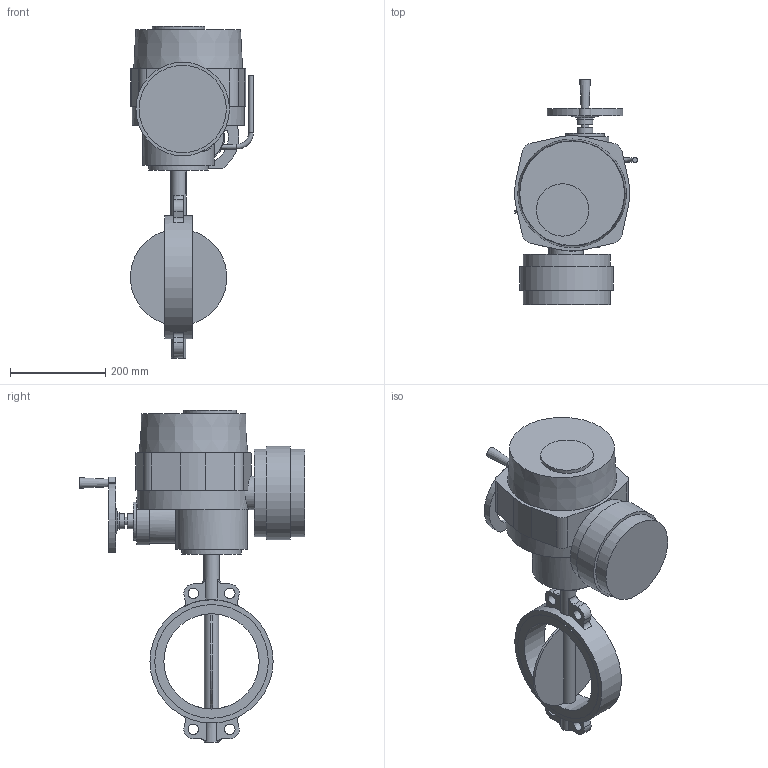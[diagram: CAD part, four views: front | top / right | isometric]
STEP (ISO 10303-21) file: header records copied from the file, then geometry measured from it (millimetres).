
FILE_DESCRIPTION(('STEP AP203'), '1');
FILE_NAME('青蜮铕 017W.Y_DN200_PN16_QT.A 030', '', ('UNSPECIFIED'), ('UNSPECIFIED'), 'ASCON STEP Converter 1.6', 'ASCON Math Kernel', '');
FILE_SCHEMA(('CONFIG_CONTROL_DESIGN'));
Length unit declared in the file: millimetre
Bounding box: 257.86 x 472 x 696 mm (x, y, z)
Volume: 16195277.6 mm3; surface area: 720790.3 mm2
Topology: 1 solids, 1 shells, 188 faces, 446 edges, 291 vertices
Faces by surface type: plane 102, cylinder 78, torus 5, cone 3
Full cylindrical faces by diameter (mm): 6.7 x8, 10 x2, 12 x4, 16 x1, 22 x4, 32 x3, 35 x1, 70 x1, 80 x1, 100 x1, 110 x1, 125 x1, 150 x1, 183 x2, 196 x1, 200 x1, 238.2 x2, 258.2 x1
Entity records: 8770 total; most frequent: CARTESIAN_POINT 2871, DIRECTION 949, ORIENTED_EDGE 812, EDGE_CURVE 406, AXIS2_PLACEMENT_3D 386, VERTEX_POINT 291, EDGE_LOOP 277, FACE_BOUND 206
